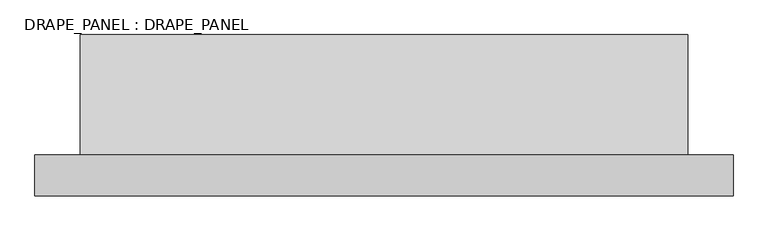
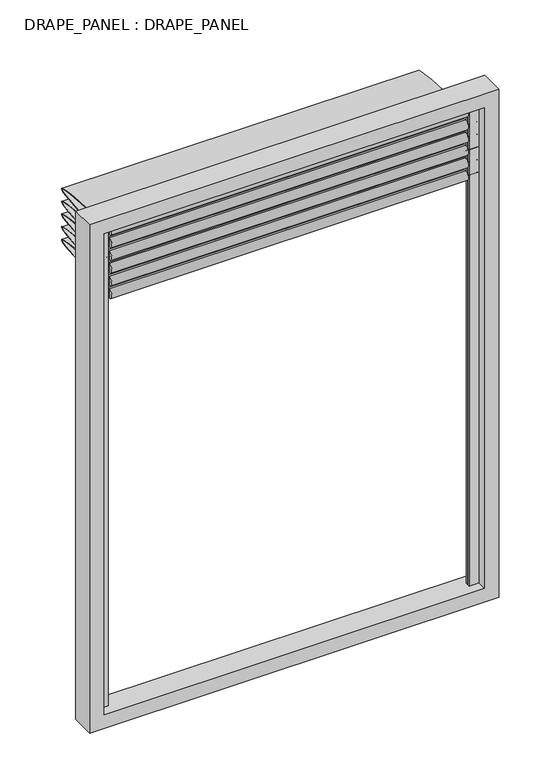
"""IFC4 building model written with IfcOpenShell, lengths in millimetres: plate geometry, DRAPE_PANEL : DRAPE_PANEL."""

from ifc_helpers import new_model, si_unit, point, frame, origin, place, context, project, spatial, polyline, circle_curve, ellipse_curve, trimmed, outline, extrude, source, transform, mapped, element, save
from ifc_brep_helpers import plane_surface, cylinder_surface, extruded_surface, advanced_brep


def drape_panel_drape_panel_0830d013(model_context):
    return source(origin(), model_context, "Body", "SolidModel", [
        advanced_brep(
        [(-790.0, 0.0, 1971.5019792), (-790.0, 0.0, 1976.5019792), (-790.0, 0.0, 1966.5019792), (790.0, 0.0, 1966.5019792), (790.0, 0.0, 1976.5019792), (790.0, 0.0, 1971.5019792), (740.0, 0.0, 1966.5019792), (740.0, 0.0, 1976.5019792), (740.0, 0.0, 1951.5019792), (740.0, 0.0, 1991.5019792), (-740.0, 0.0, 1951.5019792), (-740.0, 0.0, 1991.5019792), (-740.0, 0.0, 1966.5019792), (-740.0, 0.0, 1976.5019792)],
        [
            (0, 1),
            (1, 2, circle_curve(frame((-790.0, 0.0, 1971.5019792), z_axis=(-1.0, 0.0, 0.0), x_axis=(0.0, 0.0, 1.0)), 5.0)),
            (2, 0),
            (2, 1, circle_curve(frame((-790.0, 0.0, 1971.5019792), z_axis=(-1.0, 0.0, 0.0), x_axis=(0.0, 0.0, 1.0)), 5.0)),
            (3, 4, circle_curve(frame((790.0, 0.0, 1971.5019792), z_axis=(1.0, 0.0, 0.0), x_axis=(0.0, 0.0, 1.0)), 5.0)),
            (4, 5),
            (5, 3),
            (4, 3, circle_curve(frame((790.0, 0.0, 1971.5019792), z_axis=(1.0, 0.0, 0.0), x_axis=(0.0, 0.0, 1.0)), 5.0)),
            (6, 7, circle_curve(frame((740.0, 0.0, 1971.5019792), z_axis=(1.0, 0.0, 0.0), x_axis=(0.0, 0.0, 1.0)), 5.0)),
            (7, 4),
            (3, 6),
            (7, 6, circle_curve(frame((740.0, 0.0, 1971.5019792), z_axis=(1.0, 0.0, 0.0), x_axis=(0.0, 0.0, 1.0)), 5.0)),
            (8, 9, circle_curve(frame((740.0, 0.0, 1971.5019792), z_axis=(1.0, 0.0, 0.0), x_axis=(0.0, 0.0, 1.0)), 20.0)),
            (9, 7),
            (6, 8),
            (9, 8, circle_curve(frame((740.0, 0.0, 1971.5019792), z_axis=(1.0, 0.0, 0.0), x_axis=(0.0, 0.0, 1.0)), 20.0)),
            (10, 11, circle_curve(frame((-740.0, 0.0, 1971.5019792), z_axis=(1.0, 0.0, 0.0), x_axis=(0.0, 0.0, 1.0)), 20.0)),
            (11, 9),
            (8, 10),
            (11, 10, circle_curve(frame((-740.0, 0.0, 1971.5019792), z_axis=(1.0, 0.0, 0.0), x_axis=(0.0, 0.0, 1.0)), 20.0)),
            (12, 13, circle_curve(frame((-740.0, 0.0, 1971.5019792), z_axis=(1.0, 0.0, 0.0), x_axis=(0.0, 0.0, 1.0)), 5.0)),
            (13, 11),
            (10, 12),
            (13, 12, circle_curve(frame((-740.0, 0.0, 1971.5019792), z_axis=(1.0, 0.0, 0.0), x_axis=(0.0, 0.0, 1.0)), 5.0)),
            (1, 13),
            (12, 2),
        ],
        [
            plane_surface(frame((-790.0, 0.0, 1971.5019792), z_axis=(-1.0, 0.0, 0.0), x_axis=(0.0, 0.0, 1.0))),
            plane_surface(frame((790.0, 0.0, 1971.5019792), z_axis=(1.0, 0.0, 0.0), x_axis=(0.0, 0.0, 1.0))),
            cylinder_surface(frame((6238.8752301, 0.0, 1971.5019792), z_axis=(-1.0, 0.0, 0.0), x_axis=(0.0, 0.0, 1.0)), 5.0),
            plane_surface(frame((740.0, 0.0, 1971.5019792), z_axis=(1.0, 0.0, 0.0), x_axis=(0.0, 0.0, 1.0))),
            cylinder_surface(frame((6238.8752301, 0.0, 1971.5019792), z_axis=(-1.0, 0.0, 0.0), x_axis=(0.0, 0.0, 1.0)), 20.0),
            plane_surface(frame((-740.0, 0.0, 1971.5019792), z_axis=(-1.0, 0.0, 0.0), x_axis=(0.0, 0.0, 1.0))),
        ],
        [
            (0, [[1, 2, 3]]),
            (0, [[-3, 4, -1]]),
            (1, [[5, 6, 7]]),
            (1, [[8, -7, -6]]),
            (2, [[9, 10, -5, 11]]),
            (2, [[12, -11, -8, -10]]),
            (3, [[13, 14, -9, 15]]),
            (3, [[16, -15, -12, -14]]),
            (4, [[17, 18, -13, 19]]),
            (4, [[20, -19, -16, -18]]),
            (5, [[21, 22, -17, 23]]),
            (5, [[24, -23, -20, -22]]),
            (2, [[-2, 25, -21, 26]]),
            (2, [[-4, -26, -24, -25]]),
        ],
    ),
        advanced_brep(
        [(740.0, 0.0, 1971.5019792), (740.0, 0.0, 1968.5019792), (740.0, 0.0, 1918.7509896), (740.0, 0.0, 1915.7509896), (-740.0, 0.0, 1971.5019792), (-740.0, 0.0, 1915.7509896), (-740.0, 0.0, 1918.7509896), (-740.0, 0.0, 1968.5019792)],
        [
            (0, 1),
            (1, 2, ellipse_curve(frame((740.0, 0.0, 1943.6264844), z_axis=(-1.0, 0.0, 0.0), x_axis=(0.0, -1.0, 0.0)), 339.5695815, 24.8754948)),
            (2, 3),
            (3, 0, ellipse_curve(frame((740.0, 0.0, 1943.6264844), z_axis=(1.0, 0.0, 0.0), x_axis=(0.0, 1.0, 0.0)), 342.5695815, 27.8754948)),
            (4, 5, ellipse_curve(frame((-740.0, 0.0, 1943.6264844), z_axis=(-1.0, 0.0, 0.0), x_axis=(0.0, 0.0, -1.0)), 27.8754948, 342.5695815)),
            (5, 6),
            (6, 7, ellipse_curve(frame((-740.0, 0.0, 1943.6264844), z_axis=(1.0, 0.0, 0.0), x_axis=(0.0, 0.0, -1.0)), 24.8754948, 339.5695815)),
            (7, 4),
            (0, 4),
            (7, 1),
            (6, 2),
            (5, 3),
        ],
        [
            plane_surface(frame((740.0, 0.0, 1971.5019792), z_axis=(1.0, 0.0, 0.0), x_axis=(0.0, -2.6169353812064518e-12, -1.0))),
            plane_surface(frame((-740.0, 0.0, 1971.5019792), z_axis=(-1.0, 0.0, 0.0), x_axis=(0.0, 2.6169353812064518e-12, 1.0))),
            plane_surface(frame((740.0, 0.0, 1971.5019792), z_axis=(0.0, -1.0, 2.6169353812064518e-12), x_axis=(-1.0, 0.0, 0.0))),
            extruded_surface(trimmed(ellipse_curve(frame((-2220.0, 0.0, 1943.6264844), z_axis=(-1.0, 0.0, 0.0), x_axis=(0.0, 0.0, -1.0)), 24.8754948, 339.5695815), [point((-2220.0, 0.0, 1968.5019792))], [point((-2220.0, 0.0, 1918.7509896))], True, "CARTESIAN"), (1480.0, 0.0, 0.0), 1480.0),
            plane_surface(frame((740.0, 0.0, 1918.7509896), z_axis=(0.0, -1.0, 0.0), x_axis=(-1.0, 0.0, 0.0))),
            extruded_surface(trimmed(ellipse_curve(frame((-2220.0, 0.0, 1943.6264844), z_axis=(1.0, 0.0, 0.0), x_axis=(0.0, 0.0, -1.0)), 27.8754948, 342.5695815), [point((-2220.0, 0.0, 1915.7509896))], [point((-2220.0, 0.0, 1971.5019792))], True, "CARTESIAN"), (1480.0, 0.0, 0.0), 1480.0),
        ],
        [
            (0, [[1, 2, 3, 4]]),
            (1, [[5, 6, 7, 8]]),
            (2, [[-1, 9, -8, 10]]),
            (3, [[-2, -10, -7, 11]]),
            (4, [[-3, -11, -6, 12]]),
            (5, [[-4, -12, -5, -9]]),
        ],
    ),
        advanced_brep(
        [(-790.0, 0.0, 2027.2529688), (-790.0, 0.0, 2032.2529688), (-790.0, 0.0, 2022.2529688), (790.0, 0.0, 2022.2529688), (790.0, 0.0, 2032.2529688), (790.0, 0.0, 2027.2529688), (740.0, 0.0, 2022.2529688), (740.0, 0.0, 2032.2529688), (740.0, 0.0, 2007.2529688), (740.0, 0.0, 2047.2529688), (-740.0, 0.0, 2007.2529688), (-740.0, 0.0, 2047.2529688), (-740.0, 0.0, 2022.2529688), (-740.0, 0.0, 2032.2529688)],
        [
            (0, 1),
            (1, 2, circle_curve(frame((-790.0, 0.0, 2027.2529688), z_axis=(-1.0, 0.0, 0.0), x_axis=(0.0, 0.0, 1.0)), 5.0)),
            (2, 0),
            (2, 1, circle_curve(frame((-790.0, 0.0, 2027.2529688), z_axis=(-1.0, 0.0, 0.0), x_axis=(0.0, 0.0, 1.0)), 5.0)),
            (3, 4, circle_curve(frame((790.0, 0.0, 2027.2529688), z_axis=(1.0, 0.0, 0.0), x_axis=(0.0, 0.0, 1.0)), 5.0)),
            (4, 5),
            (5, 3),
            (4, 3, circle_curve(frame((790.0, 0.0, 2027.2529688), z_axis=(1.0, 0.0, 0.0), x_axis=(0.0, 0.0, 1.0)), 5.0)),
            (6, 7, circle_curve(frame((740.0, 0.0, 2027.2529688), z_axis=(1.0, 0.0, 0.0), x_axis=(0.0, 0.0, 1.0)), 5.0)),
            (7, 4),
            (3, 6),
            (7, 6, circle_curve(frame((740.0, 0.0, 2027.2529688), z_axis=(1.0, 0.0, 0.0), x_axis=(0.0, 0.0, 1.0)), 5.0)),
            (8, 9, circle_curve(frame((740.0, 0.0, 2027.2529688), z_axis=(1.0, 0.0, 0.0), x_axis=(0.0, 0.0, 1.0)), 20.0)),
            (9, 7),
            (6, 8),
            (9, 8, circle_curve(frame((740.0, 0.0, 2027.2529688), z_axis=(1.0, 0.0, 0.0), x_axis=(0.0, 0.0, 1.0)), 20.0)),
            (10, 11, circle_curve(frame((-740.0, 0.0, 2027.2529688), z_axis=(1.0, 0.0, 0.0), x_axis=(0.0, 0.0, 1.0)), 20.0)),
            (11, 9),
            (8, 10),
            (11, 10, circle_curve(frame((-740.0, 0.0, 2027.2529688), z_axis=(1.0, 0.0, 0.0), x_axis=(0.0, 0.0, 1.0)), 20.0)),
            (12, 13, circle_curve(frame((-740.0, 0.0, 2027.2529688), z_axis=(1.0, 0.0, 0.0), x_axis=(0.0, 0.0, 1.0)), 5.0)),
            (13, 11),
            (10, 12),
            (13, 12, circle_curve(frame((-740.0, 0.0, 2027.2529688), z_axis=(1.0, 0.0, 0.0), x_axis=(0.0, 0.0, 1.0)), 5.0)),
            (1, 13),
            (12, 2),
        ],
        [
            plane_surface(frame((-790.0, 0.0, 2027.2529688), z_axis=(-1.0, 0.0, 0.0), x_axis=(0.0, 0.0, 1.0))),
            plane_surface(frame((790.0, 0.0, 2027.2529688), z_axis=(1.0, 0.0, 0.0), x_axis=(0.0, 0.0, 1.0))),
            cylinder_surface(frame((6238.8752301, 0.0, 2027.2529688), z_axis=(-1.0, 0.0, 0.0), x_axis=(0.0, 0.0, 1.0)), 5.0),
            plane_surface(frame((740.0, 0.0, 2027.2529688), z_axis=(1.0, 0.0, 0.0), x_axis=(0.0, 0.0, 1.0))),
            cylinder_surface(frame((6238.8752301, 0.0, 2027.2529688), z_axis=(-1.0, 0.0, 0.0), x_axis=(0.0, 0.0, 1.0)), 20.0),
            plane_surface(frame((-740.0, 0.0, 2027.2529688), z_axis=(-1.0, 0.0, 0.0), x_axis=(0.0, 0.0, 1.0))),
        ],
        [
            (0, [[1, 2, 3]]),
            (0, [[-3, 4, -1]]),
            (1, [[5, 6, 7]]),
            (1, [[8, -7, -6]]),
            (2, [[9, 10, -5, 11]]),
            (2, [[12, -11, -8, -10]]),
            (3, [[13, 14, -9, 15]]),
            (3, [[16, -15, -12, -14]]),
            (4, [[17, 18, -13, 19]]),
            (4, [[20, -19, -16, -18]]),
            (5, [[21, 22, -17, 23]]),
            (5, [[24, -23, -20, -22]]),
            (2, [[-2, 25, -21, 26]]),
            (2, [[-4, -26, -24, -25]]),
        ],
    ),
        advanced_brep(
        [(740.0, 0.0, 2027.2529688), (740.0, 0.0, 2024.2529688), (740.0, 0.0, 1974.5019792), (740.0, 0.0, 1971.5019792), (-740.0, 0.0, 2027.2529688), (-740.0, 0.0, 1971.5019792), (-740.0, 0.0, 1974.5019792), (-740.0, 0.0, 2024.2529688)],
        [
            (0, 1),
            (1, 2, ellipse_curve(frame((740.0, 0.0, 1999.377474), z_axis=(-1.0, 0.0, 0.0), x_axis=(0.0, -1.0, 0.0)), 339.5695815, 24.8754948)),
            (2, 3),
            (3, 0, ellipse_curve(frame((740.0, 0.0, 1999.377474), z_axis=(1.0, 0.0, 0.0), x_axis=(0.0, 1.0, 0.0)), 342.5695815, 27.8754948)),
            (4, 5, ellipse_curve(frame((-740.0, 0.0, 1999.377474), z_axis=(-1.0, 0.0, 0.0), x_axis=(0.0, 0.0, -1.0)), 27.8754948, 342.5695815)),
            (5, 6),
            (6, 7, ellipse_curve(frame((-740.0, 0.0, 1999.377474), z_axis=(1.0, 0.0, 0.0), x_axis=(0.0, 0.0, -1.0)), 24.8754948, 339.5695815)),
            (7, 4),
            (0, 4),
            (7, 1),
            (6, 2),
            (5, 3),
        ],
        [
            plane_surface(frame((740.0, 0.0, 2027.2529688), z_axis=(1.0, 0.0, 0.0), x_axis=(0.0, -2.6169353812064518e-12, -1.0))),
            plane_surface(frame((-740.0, 0.0, 2027.2529688), z_axis=(-1.0, 0.0, 0.0), x_axis=(0.0, 2.6169353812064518e-12, 1.0))),
            plane_surface(frame((740.0, 0.0, 2027.2529688), z_axis=(0.0, -1.0, 2.6169353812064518e-12), x_axis=(-1.0, 0.0, 0.0))),
            extruded_surface(trimmed(ellipse_curve(frame((-2220.0, 0.0, 1999.377474), z_axis=(-1.0, 0.0, 0.0), x_axis=(0.0, 0.0, -1.0)), 24.8754948, 339.5695815), [point((-2220.0, 0.0, 2024.2529688))], [point((-2220.0, 0.0, 1974.5019792))], True, "CARTESIAN"), (1480.0, 0.0, 0.0), 1480.0),
            plane_surface(frame((740.0, 0.0, 1974.5019792), z_axis=(0.0, -1.0, 0.0), x_axis=(-1.0, 0.0, 0.0))),
            extruded_surface(trimmed(ellipse_curve(frame((-2220.0, 0.0, 1999.377474), z_axis=(1.0, 0.0, 0.0), x_axis=(0.0, 0.0, -1.0)), 27.8754948, 342.5695815), [point((-2220.0, 0.0, 1971.5019792))], [point((-2220.0, 0.0, 2027.2529688))], True, "CARTESIAN"), (1480.0, 0.0, 0.0), 1480.0),
        ],
        [
            (0, [[1, 2, 3, 4]]),
            (1, [[5, 6, 7, 8]]),
            (2, [[-1, 9, -8, 10]]),
            (3, [[-2, -10, -7, 11]]),
            (4, [[-3, -11, -6, 12]]),
            (5, [[-4, -12, -5, -9]]),
        ],
    ),
        advanced_brep(
        [(-790.0, 0.0, 2083.0039583), (-790.0, 0.0, 2088.0039583), (-790.0, 0.0, 2078.0039583), (790.0, 0.0, 2078.0039583), (790.0, 0.0, 2088.0039583), (790.0, 0.0, 2083.0039583), (740.0, 0.0, 2078.0039583), (740.0, 0.0, 2088.0039583), (740.0, 0.0, 2063.0039583), (740.0, 0.0, 2103.0039583), (-740.0, 0.0, 2063.0039583), (-740.0, 0.0, 2103.0039583), (-740.0, 0.0, 2078.0039583), (-740.0, 0.0, 2088.0039583)],
        [
            (0, 1),
            (1, 2, circle_curve(frame((-790.0, 0.0, 2083.0039583), z_axis=(-1.0, 0.0, 0.0), x_axis=(0.0, 0.0, 1.0)), 5.0)),
            (2, 0),
            (2, 1, circle_curve(frame((-790.0, 0.0, 2083.0039583), z_axis=(-1.0, 0.0, 0.0), x_axis=(0.0, 0.0, 1.0)), 5.0)),
            (3, 4, circle_curve(frame((790.0, 0.0, 2083.0039583), z_axis=(1.0, 0.0, 0.0), x_axis=(0.0, 0.0, 1.0)), 5.0)),
            (4, 5),
            (5, 3),
            (4, 3, circle_curve(frame((790.0, 0.0, 2083.0039583), z_axis=(1.0, 0.0, 0.0), x_axis=(0.0, 0.0, 1.0)), 5.0)),
            (6, 7, circle_curve(frame((740.0, 0.0, 2083.0039583), z_axis=(1.0, 0.0, 0.0), x_axis=(0.0, 0.0, 1.0)), 5.0)),
            (7, 4),
            (3, 6),
            (7, 6, circle_curve(frame((740.0, 0.0, 2083.0039583), z_axis=(1.0, 0.0, 0.0), x_axis=(0.0, 0.0, 1.0)), 5.0)),
            (8, 9, circle_curve(frame((740.0, 0.0, 2083.0039583), z_axis=(1.0, 0.0, 0.0), x_axis=(0.0, 0.0, 1.0)), 20.0)),
            (9, 7),
            (6, 8),
            (9, 8, circle_curve(frame((740.0, 0.0, 2083.0039583), z_axis=(1.0, 0.0, 0.0), x_axis=(0.0, 0.0, 1.0)), 20.0)),
            (10, 11, circle_curve(frame((-740.0, 0.0, 2083.0039583), z_axis=(1.0, 0.0, 0.0), x_axis=(0.0, 0.0, 1.0)), 20.0)),
            (11, 9),
            (8, 10),
            (11, 10, circle_curve(frame((-740.0, 0.0, 2083.0039583), z_axis=(1.0, 0.0, 0.0), x_axis=(0.0, 0.0, 1.0)), 20.0)),
            (12, 13, circle_curve(frame((-740.0, 0.0, 2083.0039583), z_axis=(1.0, 0.0, 0.0), x_axis=(0.0, 0.0, 1.0)), 5.0)),
            (13, 11),
            (10, 12),
            (13, 12, circle_curve(frame((-740.0, 0.0, 2083.0039583), z_axis=(1.0, 0.0, 0.0), x_axis=(0.0, 0.0, 1.0)), 5.0)),
            (1, 13),
            (12, 2),
        ],
        [
            plane_surface(frame((-790.0, 0.0, 2083.0039583), z_axis=(-1.0, 0.0, 0.0), x_axis=(0.0, 0.0, 1.0))),
            plane_surface(frame((790.0, 0.0, 2083.0039583), z_axis=(1.0, 0.0, 0.0), x_axis=(0.0, 0.0, 1.0))),
            cylinder_surface(frame((6238.8752301, 0.0, 2083.0039583), z_axis=(-1.0, 0.0, 0.0), x_axis=(0.0, 0.0, 1.0)), 5.0),
            plane_surface(frame((740.0, 0.0, 2083.0039583), z_axis=(1.0, 0.0, 0.0), x_axis=(0.0, 0.0, 1.0))),
            cylinder_surface(frame((6238.8752301, 0.0, 2083.0039583), z_axis=(-1.0, 0.0, 0.0), x_axis=(0.0, 0.0, 1.0)), 20.0),
            plane_surface(frame((-740.0, 0.0, 2083.0039583), z_axis=(-1.0, 0.0, 0.0), x_axis=(0.0, 0.0, 1.0))),
        ],
        [
            (0, [[1, 2, 3]]),
            (0, [[-3, 4, -1]]),
            (1, [[5, 6, 7]]),
            (1, [[8, -7, -6]]),
            (2, [[9, 10, -5, 11]]),
            (2, [[12, -11, -8, -10]]),
            (3, [[13, 14, -9, 15]]),
            (3, [[16, -15, -12, -14]]),
            (4, [[17, 18, -13, 19]]),
            (4, [[20, -19, -16, -18]]),
            (5, [[21, 22, -17, 23]]),
            (5, [[24, -23, -20, -22]]),
            (2, [[-2, 25, -21, 26]]),
            (2, [[-4, -26, -24, -25]]),
        ],
    ),
        advanced_brep(
        [(740.0, 0.0, 2083.0039583), (740.0, 0.0, 2080.0039583), (740.0, 0.0, 2030.2529688), (740.0, 0.0, 2027.2529688), (-740.0, 0.0, 2083.0039583), (-740.0, 0.0, 2027.2529688), (-740.0, 0.0, 2030.2529687), (-740.0, 0.0, 2080.0039583)],
        [
            (0, 1),
            (1, 2, ellipse_curve(frame((740.0, 0.0, 2055.1284635), z_axis=(-1.0, 0.0, 0.0), x_axis=(0.0, -1.0, 0.0)), 339.5695815, 24.8754948)),
            (2, 3),
            (3, 0, ellipse_curve(frame((740.0, 0.0, 2055.1284635), z_axis=(1.0, 0.0, 0.0), x_axis=(0.0, 1.0, 0.0)), 342.5695815, 27.8754948)),
            (4, 5, ellipse_curve(frame((-740.0, 0.0, 2055.1284635), z_axis=(-1.0, 0.0, 0.0), x_axis=(0.0, 0.0, -1.0)), 27.8754948, 342.5695815)),
            (5, 6),
            (6, 7, ellipse_curve(frame((-740.0, 0.0, 2055.1284635), z_axis=(1.0, 0.0, 0.0), x_axis=(0.0, 0.0, -1.0)), 24.8754948, 339.5695815)),
            (7, 4),
            (0, 4),
            (7, 1),
            (6, 2),
            (5, 3),
        ],
        [
            plane_surface(frame((740.0, 0.0, 2083.0039583), z_axis=(1.0, 0.0, 0.0), x_axis=(0.0, -2.6169353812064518e-12, -1.0))),
            plane_surface(frame((-740.0, 0.0, 2083.0039583), z_axis=(-1.0, 0.0, 0.0), x_axis=(0.0, 2.6169353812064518e-12, 1.0))),
            plane_surface(frame((740.0, 0.0, 2083.0039583), z_axis=(0.0, -1.0, 2.6169353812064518e-12), x_axis=(-1.0, 0.0, 0.0))),
            extruded_surface(trimmed(ellipse_curve(frame((-2220.0, 0.0, 2055.1284635), z_axis=(-1.0, 0.0, 0.0), x_axis=(0.0, 0.0, -1.0)), 24.8754948, 339.5695815), [point((-2220.0, 0.0, 2080.0039583))], [point((-2220.0, 0.0, 2030.2529687))], True, "CARTESIAN"), (1480.0, 0.0, 0.0), 1480.0),
            plane_surface(frame((740.0, 0.0, 2030.2529688), z_axis=(0.0, -1.0, 0.0), x_axis=(-1.0, 0.0, 0.0))),
            extruded_surface(trimmed(ellipse_curve(frame((-2220.0, 0.0, 2055.1284635), z_axis=(1.0, 0.0, 0.0), x_axis=(0.0, 0.0, -1.0)), 27.8754948, 342.5695815), [point((-2220.0, 0.0, 2027.2529688))], [point((-2220.0, 0.0, 2083.0039583))], True, "CARTESIAN"), (1480.0, 0.0, 0.0), 1480.0),
        ],
        [
            (0, [[1, 2, 3, 4]]),
            (1, [[5, 6, 7, 8]]),
            (2, [[-1, 9, -8, 10]]),
            (3, [[-2, -10, -7, 11]]),
            (4, [[-3, -11, -6, 12]]),
            (5, [[-4, -12, -5, -9]]),
        ],
    ),
        advanced_brep(
        [(-790.0, 0.0, 1915.7509896), (-790.0, 0.0, 1920.7509896), (-790.0, 0.0, 1910.7509896), (790.0, 0.0, 1910.7509896), (790.0, 0.0, 1920.7509896), (790.0, 0.0, 1915.7509896), (740.0, 0.0, 1910.7509896), (740.0, 0.0, 1920.7509896), (740.0, 0.0, 1895.7509896), (740.0, 0.0, 1935.7509896), (-740.0, 0.0, 1895.7509896), (-740.0, 0.0, 1935.7509896), (-740.0, 0.0, 1910.7509896), (-740.0, 0.0, 1920.7509896)],
        [
            (0, 1),
            (1, 2, circle_curve(frame((-790.0, 0.0, 1915.7509896), z_axis=(-1.0, 0.0, 0.0), x_axis=(0.0, 0.0, 1.0)), 5.0)),
            (2, 0),
            (2, 1, circle_curve(frame((-790.0, 0.0, 1915.7509896), z_axis=(-1.0, 0.0, 0.0), x_axis=(0.0, 0.0, 1.0)), 5.0)),
            (3, 4, circle_curve(frame((790.0, 0.0, 1915.7509896), z_axis=(1.0, 0.0, 0.0), x_axis=(0.0, 0.0, 1.0)), 5.0)),
            (4, 5),
            (5, 3),
            (4, 3, circle_curve(frame((790.0, 0.0, 1915.7509896), z_axis=(1.0, 0.0, 0.0), x_axis=(0.0, 0.0, 1.0)), 5.0)),
            (6, 7, circle_curve(frame((740.0, 0.0, 1915.7509896), z_axis=(1.0, 0.0, 0.0), x_axis=(0.0, 0.0, 1.0)), 5.0)),
            (7, 4),
            (3, 6),
            (7, 6, circle_curve(frame((740.0, 0.0, 1915.7509896), z_axis=(1.0, 0.0, 0.0), x_axis=(0.0, 0.0, 1.0)), 5.0)),
            (8, 9, circle_curve(frame((740.0, 0.0, 1915.7509896), z_axis=(1.0, 0.0, 0.0), x_axis=(0.0, 0.0, 1.0)), 20.0)),
            (9, 7),
            (6, 8),
            (9, 8, circle_curve(frame((740.0, 0.0, 1915.7509896), z_axis=(1.0, 0.0, 0.0), x_axis=(0.0, 0.0, 1.0)), 20.0)),
            (10, 11, circle_curve(frame((-740.0, 0.0, 1915.7509896), z_axis=(1.0, 0.0, 0.0), x_axis=(0.0, 0.0, 1.0)), 20.0)),
            (11, 9),
            (8, 10),
            (11, 10, circle_curve(frame((-740.0, 0.0, 1915.7509896), z_axis=(1.0, 0.0, 0.0), x_axis=(0.0, 0.0, 1.0)), 20.0)),
            (12, 13, circle_curve(frame((-740.0, 0.0, 1915.7509896), z_axis=(1.0, 0.0, 0.0), x_axis=(0.0, 0.0, 1.0)), 5.0)),
            (13, 11),
            (10, 12),
            (13, 12, circle_curve(frame((-740.0, 0.0, 1915.7509896), z_axis=(1.0, 0.0, 0.0), x_axis=(0.0, 0.0, 1.0)), 5.0)),
            (1, 13),
            (12, 2),
        ],
        [
            plane_surface(frame((-790.0, 0.0, 1915.7509896), z_axis=(-1.0, 0.0, 0.0), x_axis=(0.0, 0.0, 1.0))),
            plane_surface(frame((790.0, 0.0, 1915.7509896), z_axis=(1.0, 0.0, 0.0), x_axis=(0.0, 0.0, 1.0))),
            cylinder_surface(frame((6238.8752301, 0.0, 1915.7509896), z_axis=(-1.0, 0.0, 0.0), x_axis=(0.0, 0.0, 1.0)), 5.0),
            plane_surface(frame((740.0, 0.0, 1915.7509896), z_axis=(1.0, 0.0, 0.0), x_axis=(0.0, 0.0, 1.0))),
            cylinder_surface(frame((6238.8752301, 0.0, 1915.7509896), z_axis=(-1.0, 0.0, 0.0), x_axis=(0.0, 0.0, 1.0)), 20.0),
            plane_surface(frame((-740.0, 0.0, 1915.7509896), z_axis=(-1.0, 0.0, 0.0), x_axis=(0.0, 0.0, 1.0))),
        ],
        [
            (0, [[1, 2, 3]]),
            (0, [[-3, 4, -1]]),
            (1, [[5, 6, 7]]),
            (1, [[8, -7, -6]]),
            (2, [[9, 10, -5, 11]]),
            (2, [[12, -11, -8, -10]]),
            (3, [[13, 14, -9, 15]]),
            (3, [[16, -15, -12, -14]]),
            (4, [[17, 18, -13, 19]]),
            (4, [[20, -19, -16, -18]]),
            (5, [[21, 22, -17, 23]]),
            (5, [[24, -23, -20, -22]]),
            (2, [[-2, 25, -21, 26]]),
            (2, [[-4, -26, -24, -25]]),
        ],
    ),
        advanced_brep(
        [(740.0, 0.0, 1915.7509896), (740.0, 0.0, 1912.7509896), (740.0, 0.0, 1863.0), (740.0, 0.0, 1860.0), (-740.0, 0.0, 1915.7509896), (-740.0, 0.0, 1860.0), (-740.0, 0.0, 1863.0), (-740.0, 0.0, 1912.7509896)],
        [
            (0, 1),
            (1, 2, ellipse_curve(frame((740.0, 0.0, 1887.8754948), z_axis=(-1.0, 0.0, 0.0), x_axis=(0.0, -1.0, 0.0)), 339.5695815, 24.8754948)),
            (2, 3),
            (3, 0, ellipse_curve(frame((740.0, 0.0, 1887.8754948), z_axis=(1.0, 0.0, 0.0), x_axis=(0.0, 1.0, 0.0)), 342.5695815, 27.8754948)),
            (4, 5, ellipse_curve(frame((-740.0, 0.0, 1887.8754948), z_axis=(-1.0, 0.0, 0.0), x_axis=(0.0, 0.0, -1.0)), 27.8754948, 342.5695815)),
            (5, 6),
            (6, 7, ellipse_curve(frame((-740.0, 0.0, 1887.8754948), z_axis=(1.0, 0.0, 0.0), x_axis=(0.0, 0.0, -1.0)), 24.8754948, 339.5695815)),
            (7, 4),
            (0, 4),
            (7, 1),
            (6, 2),
            (5, 3),
        ],
        [
            plane_surface(frame((740.0, 0.0, 1915.7509896), z_axis=(1.0, 0.0, 0.0), x_axis=(0.0, -2.6169353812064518e-12, -1.0))),
            plane_surface(frame((-740.0, 0.0, 1915.7509896), z_axis=(-1.0, 0.0, 0.0), x_axis=(0.0, 2.6169353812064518e-12, 1.0))),
            plane_surface(frame((740.0, 0.0, 1915.7509896), z_axis=(0.0, -1.0, 2.6169353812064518e-12), x_axis=(-1.0, 0.0, 0.0))),
            extruded_surface(trimmed(ellipse_curve(frame((-2220.0, 0.0, 1887.8754948), z_axis=(-1.0, 0.0, 0.0), x_axis=(0.0, 0.0, -1.0)), 24.8754948, 339.5695815), [point((-2220.0, 0.0, 1912.7509896))], [point((-2220.0, 0.0, 1863.0))], True, "CARTESIAN"), (1480.0, 0.0, 0.0), 1480.0),
            plane_surface(frame((740.0, 0.0, 1863.0), z_axis=(0.0, -1.0, 0.0), x_axis=(-1.0, 0.0, 0.0))),
            extruded_surface(trimmed(ellipse_curve(frame((-2220.0, 0.0, 1887.8754948), z_axis=(1.0, 0.0, 0.0), x_axis=(0.0, 0.0, -1.0)), 27.8754948, 342.5695815), [point((-2220.0, 0.0, 1860.0))], [point((-2220.0, 0.0, 1915.7509896))], True, "CARTESIAN"), (1480.0, 0.0, 0.0), 1480.0),
        ],
        [
            (0, [[1, 2, 3, 4]]),
            (1, [[5, 6, 7, 8]]),
            (2, [[-1, 9, -8, 10]]),
            (3, [[-2, -10, -7, 11]]),
            (4, [[-3, -11, -6, 12]]),
            (5, [[-4, -12, -5, -9]]),
        ],
    ),
        advanced_brep(
        [(-790.0, 0.0, 2138.7549479), (-790.0, 0.0, 2143.7549479), (-790.0, 0.0, 2133.7549479), (790.0, 0.0, 2133.7549479), (790.0, 0.0, 2143.7549479), (790.0, 0.0, 2138.7549479), (740.0, 0.0, 2133.7549479), (740.0, 0.0, 2143.7549479), (740.0, 0.0, 2118.7549479), (740.0, 0.0, 2158.7549479), (-740.0, 0.0, 2118.7549479), (-740.0, 0.0, 2158.7549479), (-740.0, 0.0, 2133.7549479), (-740.0, 0.0, 2143.7549479)],
        [
            (0, 1),
            (1, 2, circle_curve(frame((-790.0, 0.0, 2138.7549479), z_axis=(-1.0, 0.0, 0.0), x_axis=(0.0, 0.0, 1.0)), 5.0)),
            (2, 0),
            (2, 1, circle_curve(frame((-790.0, 0.0, 2138.7549479), z_axis=(-1.0, 0.0, 0.0), x_axis=(0.0, 0.0, 1.0)), 5.0)),
            (3, 4, circle_curve(frame((790.0, 0.0, 2138.7549479), z_axis=(1.0, 0.0, 0.0), x_axis=(0.0, 0.0, 1.0)), 5.0)),
            (4, 5),
            (5, 3),
            (4, 3, circle_curve(frame((790.0, 0.0, 2138.7549479), z_axis=(1.0, 0.0, 0.0), x_axis=(0.0, 0.0, 1.0)), 5.0)),
            (6, 7, circle_curve(frame((740.0, 0.0, 2138.7549479), z_axis=(1.0, 0.0, 0.0), x_axis=(0.0, 0.0, 1.0)), 5.0)),
            (7, 4),
            (3, 6),
            (7, 6, circle_curve(frame((740.0, 0.0, 2138.7549479), z_axis=(1.0, 0.0, 0.0), x_axis=(0.0, 0.0, 1.0)), 5.0)),
            (8, 9, circle_curve(frame((740.0, 0.0, 2138.7549479), z_axis=(1.0, 0.0, 0.0), x_axis=(0.0, 0.0, 1.0)), 20.0)),
            (9, 7),
            (6, 8),
            (9, 8, circle_curve(frame((740.0, 0.0, 2138.7549479), z_axis=(1.0, 0.0, 0.0), x_axis=(0.0, 0.0, 1.0)), 20.0)),
            (10, 11, circle_curve(frame((-740.0, 0.0, 2138.7549479), z_axis=(1.0, 0.0, 0.0), x_axis=(0.0, 0.0, 1.0)), 20.0)),
            (11, 9),
            (8, 10),
            (11, 10, circle_curve(frame((-740.0, 0.0, 2138.7549479), z_axis=(1.0, 0.0, 0.0), x_axis=(0.0, 0.0, 1.0)), 20.0)),
            (12, 13, circle_curve(frame((-740.0, 0.0, 2138.7549479), z_axis=(1.0, 0.0, 0.0), x_axis=(0.0, 0.0, 1.0)), 5.0)),
            (13, 11),
            (10, 12),
            (13, 12, circle_curve(frame((-740.0, 0.0, 2138.7549479), z_axis=(1.0, 0.0, 0.0), x_axis=(0.0, 0.0, 1.0)), 5.0)),
            (1, 13),
            (12, 2),
        ],
        [
            plane_surface(frame((-790.0, 0.0, 2138.7549479), z_axis=(-1.0, 0.0, 0.0), x_axis=(0.0, 0.0, 1.0))),
            plane_surface(frame((790.0, 0.0, 2138.7549479), z_axis=(1.0, 0.0, 0.0), x_axis=(0.0, 0.0, 1.0))),
            cylinder_surface(frame((6238.8752301, 0.0, 2138.7549479), z_axis=(-1.0, 0.0, 0.0), x_axis=(0.0, 0.0, 1.0)), 5.0),
            plane_surface(frame((740.0, 0.0, 2138.7549479), z_axis=(1.0, 0.0, 0.0), x_axis=(0.0, 0.0, 1.0))),
            cylinder_surface(frame((6238.8752301, 0.0, 2138.7549479), z_axis=(-1.0, 0.0, 0.0), x_axis=(0.0, 0.0, 1.0)), 20.0),
            plane_surface(frame((-740.0, 0.0, 2138.7549479), z_axis=(-1.0, 0.0, 0.0), x_axis=(0.0, 0.0, 1.0))),
        ],
        [
            (0, [[1, 2, 3]]),
            (0, [[-3, 4, -1]]),
            (1, [[5, 6, 7]]),
            (1, [[8, -7, -6]]),
            (2, [[9, 10, -5, 11]]),
            (2, [[12, -11, -8, -10]]),
            (3, [[13, 14, -9, 15]]),
            (3, [[16, -15, -12, -14]]),
            (4, [[17, 18, -13, 19]]),
            (4, [[20, -19, -16, -18]]),
            (5, [[21, 22, -17, 23]]),
            (5, [[24, -23, -20, -22]]),
            (2, [[-2, 25, -21, 26]]),
            (2, [[-4, -26, -24, -25]]),
        ],
    ),
        advanced_brep(
        [(740.0, 0.0, 2138.7549479), (740.0, 0.0, 2135.7549479), (740.0, 0.0, 2086.0039583), (740.0, 0.0, 2083.0039583), (-740.0, 0.0, 2138.7549479), (-740.0, 0.0, 2083.0039583), (-740.0, 0.0, 2086.0039583), (-740.0, 0.0, 2135.7549479)],
        [
            (0, 1),
            (1, 2, ellipse_curve(frame((740.0, 0.0, 2110.8794531), z_axis=(-1.0, 0.0, 0.0), x_axis=(0.0, -1.0, 0.0)), 339.5695815, 24.8754948)),
            (2, 3),
            (3, 0, ellipse_curve(frame((740.0, 0.0, 2110.8794531), z_axis=(1.0, 0.0, 0.0), x_axis=(0.0, 1.0, 0.0)), 342.5695815, 27.8754948)),
            (4, 5, ellipse_curve(frame((-740.0, 0.0, 2110.8794531), z_axis=(-1.0, 0.0, 0.0), x_axis=(0.0, 0.0, -1.0)), 27.8754948, 342.5695815)),
            (5, 6),
            (6, 7, ellipse_curve(frame((-740.0, 0.0, 2110.8794531), z_axis=(1.0, 0.0, 0.0), x_axis=(0.0, 0.0, -1.0)), 24.8754948, 339.5695815)),
            (7, 4),
            (0, 4),
            (7, 1),
            (6, 2),
            (5, 3),
        ],
        [
            plane_surface(frame((740.0, 0.0, 2138.7549479), z_axis=(1.0, 0.0, 0.0), x_axis=(0.0, -2.6169353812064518e-12, -1.0))),
            plane_surface(frame((-740.0, 0.0, 2138.7549479), z_axis=(-1.0, 0.0, 0.0), x_axis=(0.0, 2.6169353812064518e-12, 1.0))),
            plane_surface(frame((740.0, 0.0, 2138.7549479), z_axis=(0.0, -1.0, 2.6169353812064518e-12), x_axis=(-1.0, 0.0, 0.0))),
            extruded_surface(trimmed(ellipse_curve(frame((-2220.0, 0.0, 2110.8794531), z_axis=(-1.0, 0.0, 0.0), x_axis=(0.0, 0.0, -1.0)), 24.8754948, 339.5695815), [point((-2220.0, 0.0, 2135.7549479))], [point((-2220.0, 0.0, 2086.0039583))], True, "CARTESIAN"), (1480.0, 0.0, 0.0), 1480.0),
            plane_surface(frame((740.0, 0.0, 2086.0039583), z_axis=(0.0, -1.0, 0.0), x_axis=(-1.0, 0.0, 0.0))),
            extruded_surface(trimmed(ellipse_curve(frame((-2220.0, 0.0, 2110.8794531), z_axis=(1.0, 0.0, 0.0), x_axis=(0.0, 0.0, -1.0)), 27.8754948, 342.5695815), [point((-2220.0, 0.0, 2083.0039583))], [point((-2220.0, 0.0, 2138.7549479))], True, "CARTESIAN"), (1480.0, 0.0, 0.0), 1480.0),
        ],
        [
            (0, [[1, 2, 3, 4]]),
            (1, [[5, 6, 7, 8]]),
            (2, [[-1, 9, -8, 10]]),
            (3, [[-2, -10, -7, 11]]),
            (4, [[-3, -11, -6, 12]]),
            (5, [[-4, -12, -5, -9]]),
        ],
    ),
        extrude(outline(polyline([(750.0, 5.0), (750.0, 10.0), (790.0, 10.0), (790.0, -10.0), (750.0, -10.0), (750.0, -5.0), (785.0, -5.0), (785.0, 5.0), (750.0, 5.0)])), frame((0.0, 0.0, 60.0), z_axis=(0.0, 0.0, 1.0), x_axis=(1.0, 0.0, 0.0)), (0.0, 0.0, 1.0), 2108.7549479),
        extrude(outline(polyline([(-750.0, 5.0), (-785.0, 5.0), (-785.0, -5.0), (-750.0, -5.0), (-750.0, -10.0), (-790.0, -10.0), (-790.0, 10.0), (-750.0, 10.0), (-750.0, 5.0)])), frame((0.0, 0.0, 60.0), z_axis=(0.0, 0.0, 1.0), x_axis=(1.0, 0.0, 0.0)), (0.0, 0.0, 1.0), 2108.7549479),
        advanced_brep(
        [(740.0, 0.0, 1855.0), (740.0, 0.0, 1865.0), (790.0, 0.0, 1865.0), (790.0, 0.0, 1855.0), (740.0, 0.0, 1840.0), (740.0, 0.0, 1880.0), (-740.0, 0.0, 1840.0), (-740.0, 0.0, 1880.0), (-740.0, 0.0, 1855.0), (-740.0, 0.0, 1865.0), (-790.0, 0.0, 1855.0), (-790.0, 0.0, 1865.0), (-790.0, 0.0, 1860.0), (790.0, 0.0, 1860.0)],
        [
            (0, 1, circle_curve(frame((740.0, 0.0, 1860.0), z_axis=(1.0, 0.0, 0.0), x_axis=(0.0, 0.0, 1.0)), 5.0)),
            (1, 2),
            (2, 3, circle_curve(frame((790.0, 0.0, 1860.0), z_axis=(-1.0, 0.0, 0.0), x_axis=(0.0, 0.0, 1.0)), 5.0)),
            (3, 0),
            (1, 0, circle_curve(frame((740.0, 0.0, 1860.0), z_axis=(1.0, 0.0, 0.0), x_axis=(0.0, 0.0, 1.0)), 5.0)),
            (3, 2, circle_curve(frame((790.0, 0.0, 1860.0), z_axis=(-1.0, 0.0, 0.0), x_axis=(0.0, 0.0, 1.0)), 5.0)),
            (4, 5, circle_curve(frame((740.0, 0.0, 1860.0), z_axis=(1.0, 0.0, 0.0), x_axis=(0.0, 0.0, 1.0)), 20.0)),
            (5, 1),
            (0, 4),
            (5, 4, circle_curve(frame((740.0, 0.0, 1860.0), z_axis=(1.0, 0.0, 0.0), x_axis=(0.0, 0.0, 1.0)), 20.0)),
            (6, 7, circle_curve(frame((-740.0, 0.0, 1860.0), z_axis=(1.0, 0.0, 0.0), x_axis=(0.0, 0.0, 1.0)), 20.0)),
            (7, 5),
            (4, 6),
            (7, 6, circle_curve(frame((-740.0, 0.0, 1860.0), z_axis=(1.0, 0.0, 0.0), x_axis=(0.0, 0.0, 1.0)), 20.0)),
            (8, 9, circle_curve(frame((-740.0, 0.0, 1860.0), z_axis=(1.0, 0.0, 0.0), x_axis=(0.0, 0.0, 1.0)), 5.0)),
            (9, 7),
            (6, 8),
            (9, 8, circle_curve(frame((-740.0, 0.0, 1860.0), z_axis=(1.0, 0.0, 0.0), x_axis=(0.0, 0.0, 1.0)), 5.0)),
            (10, 11, circle_curve(frame((-790.0, 0.0, 1860.0), z_axis=(1.0, 0.0, 0.0), x_axis=(0.0, 0.0, 1.0)), 5.0)),
            (11, 9),
            (8, 10),
            (11, 10, circle_curve(frame((-790.0, 0.0, 1860.0), z_axis=(1.0, 0.0, 0.0), x_axis=(0.0, 0.0, 1.0)), 5.0)),
            (12, 11),
            (10, 12),
            (2, 13),
            (13, 3),
        ],
        [
            cylinder_surface(frame((9550.0, 0.0, 1860.0), z_axis=(-1.0, 0.0, 0.0), x_axis=(0.0, 0.0, 1.0)), 5.0),
            plane_surface(frame((740.0, 0.0, 1860.0), z_axis=(1.0, 0.0, 0.0), x_axis=(0.0, 0.0, 1.0))),
            cylinder_surface(frame((9550.0, 0.0, 1860.0), z_axis=(-1.0, 0.0, 0.0), x_axis=(0.0, 0.0, 1.0)), 20.0),
            plane_surface(frame((-740.0, 0.0, 1860.0), z_axis=(-1.0, 0.0, 0.0), x_axis=(0.0, 0.0, 1.0))),
            plane_surface(frame((-790.0, 0.0, 1860.0), z_axis=(-1.0, 0.0, 0.0), x_axis=(0.0, 0.0, 1.0))),
            plane_surface(frame((790.0, 0.0, 1860.0), z_axis=(1.0, 0.0, 0.0), x_axis=(0.0, 0.0, 1.0))),
        ],
        [
            (0, [[1, 2, 3, 4]]),
            (0, [[5, -4, 6, -2]]),
            (1, [[7, 8, -1, 9]]),
            (1, [[10, -9, -5, -8]]),
            (2, [[11, 12, -7, 13]]),
            (2, [[14, -13, -10, -12]]),
            (3, [[15, 16, -11, 17]]),
            (3, [[18, -17, -14, -16]]),
            (0, [[19, 20, -15, 21]]),
            (0, [[22, -21, -18, -20]]),
            (4, [[23, -19, 24]]),
            (4, [[-24, -22, -23]]),
            (5, [[-3, 25, 26]]),
            (5, [[-6, -26, -25]]),
        ],
    ),
        extrude(outline(polyline([(2228.7549479, -850.0), (0.0, -850.0), (0.0, 850.0), (2228.7549479, 850.0), (2228.7549479, -850.0)]), holes=[polyline([(2168.7549479, -790.0), (2168.7549479, 790.0), (60.0, 790.0), (60.0, -790.0), (2168.7549479, -790.0)])]), frame((0.0, -50.0, 0.0), z_axis=(0.0, 1.0, 0.0), x_axis=(0.0, 0.0, 1.0)), (0.0, 0.0, 1.0), 100.0),
    ])


if __name__ == "__main__":
    model = new_model("IFC4")
    model_context = context("Model", 3, world=origin())
    ifc_project = project(units=[si_unit("LENGTHUNIT", "METRE", prefix="MILLI")], contexts=[model_context])
    site = spatial("IfcSite", under=ifc_project)
    building = spatial("IfcBuilding", under=site)
    placement = place(None, origin())
    drape_panel_drape_panel_shape = drape_panel_drape_panel_0830d013(model_context)
    element("IfcPlate", 1, ObjectType="DRAPE_PANEL : DRAPE_PANEL", at=placement, inside=building, context=model_context, shape_type="MappedRepresentation", body=[
        mapped(drape_panel_drape_panel_shape, transform((0.0, 0.0, 0.0), x_axis=(1.0, 0.0, 0.0), y_axis=(0.0, 1.0, 0.0), z_axis=(0.0, 0.0, 1.0))),
    ])
    save(model, "model.ifc")
